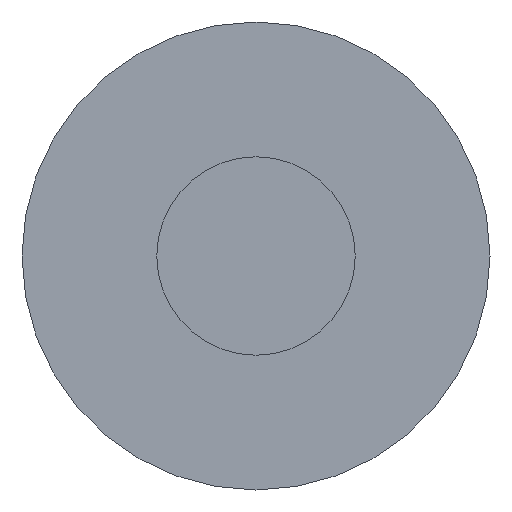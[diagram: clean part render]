
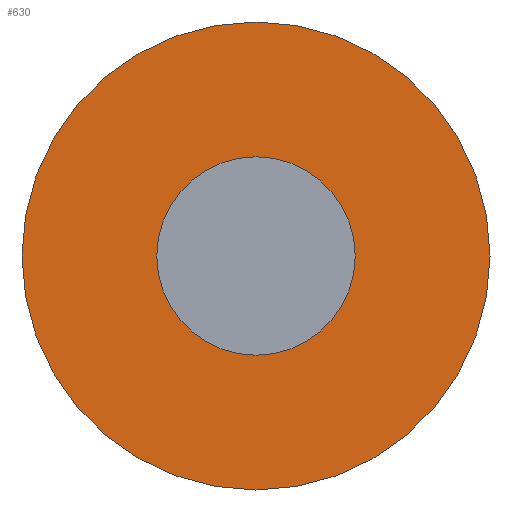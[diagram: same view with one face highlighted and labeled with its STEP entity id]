
A CAD part, front view. The second image highlights one B-rep face of the part: STEP entity #630.
In plain terms, the highlighted planar face has unit normal (0, -1, 0).
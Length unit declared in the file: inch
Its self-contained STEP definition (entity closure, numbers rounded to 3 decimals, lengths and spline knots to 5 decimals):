
#213=CARTESIAN_POINT('',(0.,0.,0.));
#214=DIRECTION('',(0.,-1.,0.));
#215=DIRECTION('',(-1.,0.,0.));
#216=AXIS2_PLACEMENT_3D('',#213,#214,#215);
#218=CARTESIAN_POINT('',(0.,0.,0.));
#219=DIRECTION('',(0.,1.,0.));
#220=DIRECTION('',(-1.,0.,0.));
#221=AXIS2_PLACEMENT_3D('',#218,#219,#220);
#223=CARTESIAN_POINT('',(0.,0.,0.));
#224=DIRECTION('',(0.,-1.,0.));
#225=DIRECTION('',(1.,0.,0.));
#226=AXIS2_PLACEMENT_3D('',#223,#224,#225);
#228=CARTESIAN_POINT('',(0.,0.,0.));
#229=DIRECTION('',(0.,-1.,0.));
#230=DIRECTION('',(-1.,0.,0.));
#231=AXIS2_PLACEMENT_3D('',#228,#229,#230);
#512=CARTESIAN_POINT('',(-0.224,0.,0.));
#514=VERTEX_POINT('',#512);
#516=CARTESIAN_POINT('',(0.224,0.,0.));
#518=VERTEX_POINT('',#516);
#519=CARTESIAN_POINT('',(0.095,0.,0.));
#520=CARTESIAN_POINT('',(-0.095,0.,0.));
#521=VERTEX_POINT('',#519);
#522=VERTEX_POINT('',#520);
#614=CARTESIAN_POINT('',(0.,0.,0.));
#615=DIRECTION('',(0.,1.,0.));
#616=DIRECTION('',(1.,0.,0.));
#617=AXIS2_PLACEMENT_3D('',#614,#615,#616);
#618=PLANE('',#617);
#620=ORIENTED_EDGE('',*,*,#619,.F.);
#622=ORIENTED_EDGE('',*,*,#621,.T.);
#623=EDGE_LOOP('',(#620,#622));
#624=FACE_OUTER_BOUND('',#623,.F.);
#625=ORIENTED_EDGE('',*,*,#604,.T.);
#627=ORIENTED_EDGE('',*,*,#626,.T.);
#628=EDGE_LOOP('',(#625,#627));
#629=FACE_BOUND('',#628,.F.);
#217=CIRCLE('',#216,0.224);
#222=CIRCLE('',#221,0.224);
#227=CIRCLE('',#226,0.095);
#232=CIRCLE('',#231,0.095);
#604=EDGE_CURVE('',#521,#522,#227,.T.);
#619=EDGE_CURVE('',#514,#518,#217,.T.);
#621=EDGE_CURVE('',#514,#518,#222,.T.);
#626=EDGE_CURVE('',#522,#521,#232,.T.);
#630=ADVANCED_FACE('',(#624,#629),#618,.F.);
